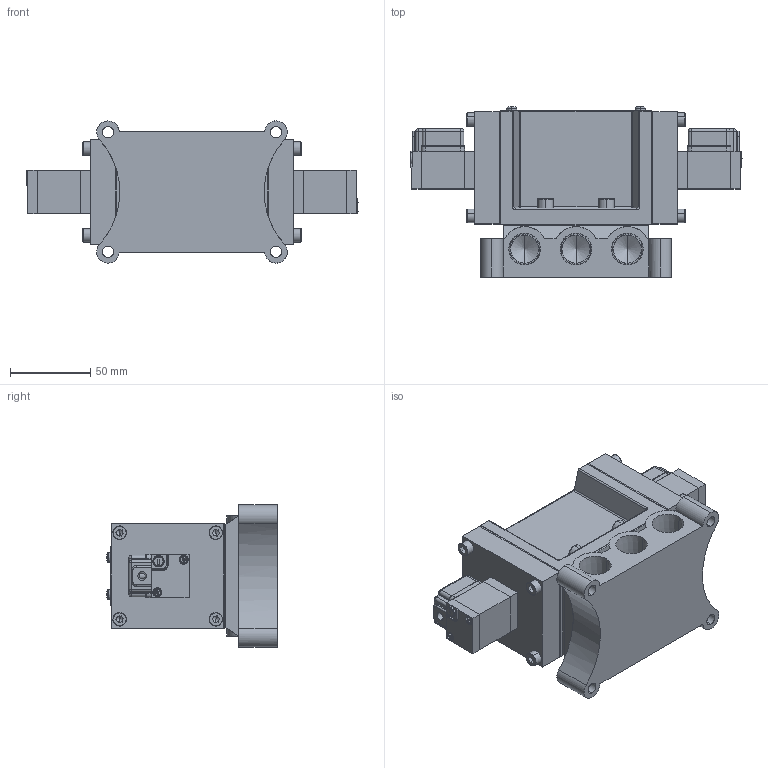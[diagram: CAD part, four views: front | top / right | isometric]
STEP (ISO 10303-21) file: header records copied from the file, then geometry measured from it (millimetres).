
FILE_DESCRIPTION (( 'STEP AP203' ), '1' );
FILE_NAME ('PMD2410#-04-#G#.STEP', '2016-03-09T06:27:46', ( 'Sam Lin' ), ( '' ), 'SwSTEP 2.0', 'SolidWorks 2013', '' );
FILE_SCHEMA (( 'CONFIG_CONTROL_DESIGN' ));
Length unit declared in the file: metre
Products named in the file (17): PM06-G1; PM10-MARK-2410; PMD2410#-04-#G#; PMS2410-7; PMS2410-1; PMS2410-8; PMS2410-2; PMS2410-6(04); PMS2410-3; PM06-C1_1; PMS2410-4; PM06-C4_1; ISO 4762 M5 x 20; PM06-C6-M3_1; PM06-C3-M4_1; PM06-C5_1; ISO 4762 M6 x 20
Assembly tree (39 placements, depth 2):
  PMD2410#-04-#G#
    PMS2410-1
    PMS2410-2
    PMS2410-3  x2
    PMS2410-4  x2
    ISO 4762 M5 x 20  x8
    PM06-C3-M4_1  x4
    ISO 4762 M6 x 20  x4
    PM10-MARK-2410
    PMS2410-7
    PMS2410-8  x2
    PMS2410-6(04)
    PM06-C1_1  x2
    PM06-C4_1  x2
    PM06-C6-M3_1  x4
    PM06-C5_1  x2
    PM06-G1  x2
Bounding box: 207 x 106.35 x 88.61 mm (x, y, z)
Volume: 731775 mm3; surface area: 174306.4 mm2
Topology: 45 solids, 45 shells, 1122 faces, 2667 edges, 1639 vertices
Faces by surface type: plane 574, cylinder 262, cone 142, bspline 136, torus 8
Entity records: 20558 total; most frequent: CARTESIAN_POINT 6432, ORIENTED_EDGE 2420, DIRECTION 2385, EDGE_CURVE 1210, AXIS2_PLACEMENT_3D 860, VERTEX_POINT 773, LINE 665, VECTOR 665
